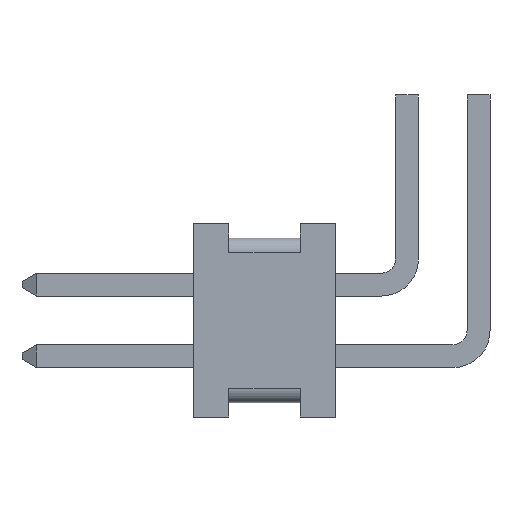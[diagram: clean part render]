
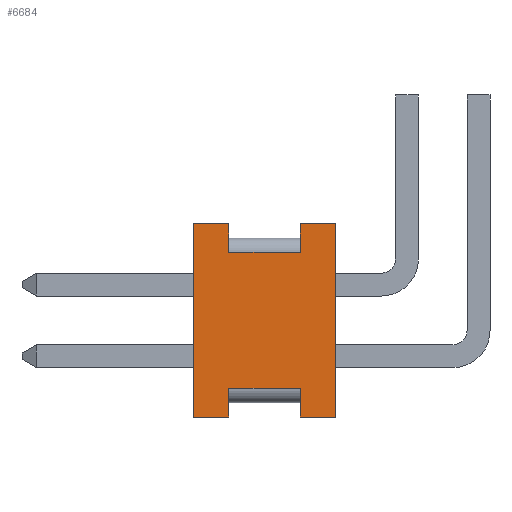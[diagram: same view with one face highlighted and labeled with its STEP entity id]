
A CAD part, left-side view. The second image highlights one B-rep face of the part: STEP entity #6684.
In plain terms, the highlighted planar face has unit normal (-1, 0, 0).
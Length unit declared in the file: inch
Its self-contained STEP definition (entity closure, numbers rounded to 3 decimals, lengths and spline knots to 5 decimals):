
#5 = EDGE_CURVE ( 'NONE', #4576, #110, #2724, .T. ) ;
#110 = VERTEX_POINT ( 'NONE', #1661 ) ;
#189 = CARTESIAN_POINT ( 'NONE',  ( -0.075, 0.099, -0.0675 ) ) ;
#210 = VECTOR ( 'NONE', #1917, 39.37008 ) ;
#439 = ORIENTED_EDGE ( 'NONE', *, *, #2775, .F. ) ;
#637 = ORIENTED_EDGE ( 'NONE', *, *, #5, .T. ) ;
#666 = VECTOR ( 'NONE', #4934, 39.37008 ) ;
#725 = CARTESIAN_POINT ( 'NONE',  ( -0.075, 0.099, 0.0675 ) ) ;
#746 = LINE ( 'NONE', #4200, #1430 ) ;
#749 = EDGE_CURVE ( 'NONE', #3962, #2841, #2348, .T. ) ;
#750 = CARTESIAN_POINT ( 'NONE',  ( -0.075, 0.099, 0.0675 ) ) ;
#927 = FACE_OUTER_BOUND ( 'NONE', #4146, .T. ) ;
#955 = ORIENTED_EDGE ( 'NONE', *, *, #3606, .T. ) ;
#1157 = EDGE_CURVE ( 'NONE', #2841, #4528, #4272, .T. ) ;
#1346 = VECTOR ( 'NONE', #1589, 39.37008 ) ;
#1352 = LINE ( 'NONE', #6572, #2049 ) ;
#1354 = ORIENTED_EDGE ( 'NONE', *, *, #3099, .T. ) ;
#1430 = VECTOR ( 'NONE', #6374, 39.37008 ) ;
#1511 = EDGE_CURVE ( 'NONE', #6709, #1708, #2157, .T. ) ;
#1589 = DIRECTION ( 'NONE',  ( 0., 0., -1. ) ) ;
#1629 = CARTESIAN_POINT ( 'NONE',  ( -0.075, 0.0245, -0.0475 ) ) ;
#1661 = CARTESIAN_POINT ( 'NONE',  ( -0.075, 0.0245, -0.0675 ) ) ;
#1665 = VECTOR ( 'NONE', #6109, 39.37008 ) ;
#1708 = VERTEX_POINT ( 'NONE', #1859 ) ;
#1752 = CARTESIAN_POINT ( 'NONE',  ( -0.075, 0.0745, 0.0675 ) ) ;
#1859 = CARTESIAN_POINT ( 'NONE',  ( -0.075, 0., 0.0675 ) ) ;
#1899 = DIRECTION ( 'NONE',  ( 0., -1., 0. ) ) ;
#1917 = DIRECTION ( 'NONE',  ( 0., 0., 1. ) ) ;
#2040 = CARTESIAN_POINT ( 'NONE',  ( -0.075, 0.099, 0.0675 ) ) ;
#2049 = VECTOR ( 'NONE', #2739, 39.37008 ) ;
#2075 = CARTESIAN_POINT ( 'NONE',  ( -0.075, 0.0745, 0.0475 ) ) ;
#2153 = ORIENTED_EDGE ( 'NONE', *, *, #5321, .F. ) ;
#2157 = LINE ( 'NONE', #4554, #2678 ) ;
#2172 = VECTOR ( 'NONE', #3416, 39.37008 ) ;
#2348 = LINE ( 'NONE', #3944, #1665 ) ;
#2678 = VECTOR ( 'NONE', #6194, 39.37008 ) ;
#2724 = LINE ( 'NONE', #7085, #1346 ) ;
#2739 = DIRECTION ( 'NONE',  ( 0., -1., 0. ) ) ;
#2775 = EDGE_CURVE ( 'NONE', #3962, #1708, #1352, .T. ) ;
#2805 = CARTESIAN_POINT ( 'NONE',  ( -0.075, 0.0245, 0.0475 ) ) ;
#2841 = VERTEX_POINT ( 'NONE', #2805 ) ;
#2848 = ORIENTED_EDGE ( 'NONE', *, *, #6750, .F. ) ;
#2866 = VERTEX_POINT ( 'NONE', #4519 ) ;
#3007 = CARTESIAN_POINT ( 'NONE',  ( -0.075, 0.099, -0.0675 ) ) ;
#3085 = ORIENTED_EDGE ( 'NONE', *, *, #749, .T. ) ;
#3099 = EDGE_CURVE ( 'NONE', #2866, #4576, #746, .T. ) ;
#3387 = VERTEX_POINT ( 'NONE', #6069 ) ;
#3416 = DIRECTION ( 'NONE',  ( 0., 0., 1. ) ) ;
#3490 = LINE ( 'NONE', #189, #4976 ) ;
#3606 = EDGE_CURVE ( 'NONE', #110, #6709, #3490, .T. ) ;
#3736 = LINE ( 'NONE', #1752, #2172 ) ;
#3754 = PLANE ( 'NONE',  #3797 ) ;
#3755 = CARTESIAN_POINT ( 'NONE',  ( -0.075, 0.099, 0.0475 ) ) ;
#3797 = AXIS2_PLACEMENT_3D ( 'NONE', #2040, #4319, #5378 ) ;
#3815 = ORIENTED_EDGE ( 'NONE', *, *, #7065, .T. ) ;
#3944 = CARTESIAN_POINT ( 'NONE',  ( -0.075, 0.0245, 0.0675 ) ) ;
#3962 = VERTEX_POINT ( 'NONE', #4117 ) ;
#3987 = LINE ( 'NONE', #725, #4941 ) ;
#4088 = VERTEX_POINT ( 'NONE', #6896 ) ;
#4117 = CARTESIAN_POINT ( 'NONE',  ( -0.075, 0.0245, 0.0675 ) ) ;
#4138 = DIRECTION ( 'NONE',  ( 0., -1., 0. ) ) ;
#4146 = EDGE_LOOP ( 'NONE', ( #5948, #6460, #2848, #2153, #3815, #4990, #1354, #637, #955, #6301, #439, #3085 ) ) ;
#4200 = CARTESIAN_POINT ( 'NONE',  ( -0.075, 0.099, -0.0475 ) ) ;
#4272 = LINE ( 'NONE', #3755, #4349 ) ;
#4277 = CARTESIAN_POINT ( 'NONE',  ( -0.075, 0., -0.0675 ) ) ;
#4319 = DIRECTION ( 'NONE',  ( 1., 0., 0. ) ) ;
#4349 = VECTOR ( 'NONE', #5380, 39.37008 ) ;
#4519 = CARTESIAN_POINT ( 'NONE',  ( -0.075, 0.0745, -0.0475 ) ) ;
#4528 = VERTEX_POINT ( 'NONE', #2075 ) ;
#4554 = CARTESIAN_POINT ( 'NONE',  ( -0.075, 0., 0.0675 ) ) ;
#4576 = VERTEX_POINT ( 'NONE', #1629 ) ;
#4934 = DIRECTION ( 'NONE',  ( 0., -1., 0. ) ) ;
#4941 = VECTOR ( 'NONE', #5678, 39.37008 ) ;
#4976 = VECTOR ( 'NONE', #1899, 39.37008 ) ;
#4990 = ORIENTED_EDGE ( 'NONE', *, *, #5279, .T. ) ;
#5243 = EDGE_CURVE ( 'NONE', #4528, #4088, #3736, .T. ) ;
#5246 = LINE ( 'NONE', #3007, #5658 ) ;
#5279 = EDGE_CURVE ( 'NONE', #7073, #2866, #6567, .T. ) ;
#5321 = EDGE_CURVE ( 'NONE', #3387, #5692, #3987, .T. ) ;
#5378 = DIRECTION ( 'NONE',  ( 0., 0., -1. ) ) ;
#5380 = DIRECTION ( 'NONE',  ( 0., 1., 0. ) ) ;
#5426 = LINE ( 'NONE', #7139, #666 ) ;
#5658 = VECTOR ( 'NONE', #4138, 39.37008 ) ;
#5678 = DIRECTION ( 'NONE',  ( 0., 0., 1. ) ) ;
#5692 = VERTEX_POINT ( 'NONE', #750 ) ;
#5948 = ORIENTED_EDGE ( 'NONE', *, *, #1157, .T. ) ;
#6069 = CARTESIAN_POINT ( 'NONE',  ( -0.075, 0.099, -0.0675 ) ) ;
#6109 = DIRECTION ( 'NONE',  ( 0., 0., -1. ) ) ;
#6194 = DIRECTION ( 'NONE',  ( 0., 0., 1. ) ) ;
#6219 = CARTESIAN_POINT ( 'NONE',  ( -0.075, 0.0745, -0.0675 ) ) ;
#6301 = ORIENTED_EDGE ( 'NONE', *, *, #1511, .T. ) ;
#6315 = CARTESIAN_POINT ( 'NONE',  ( -0.075, 0.0745, -0.0675 ) ) ;
#6374 = DIRECTION ( 'NONE',  ( 0., -1., 0. ) ) ;
#6460 = ORIENTED_EDGE ( 'NONE', *, *, #5243, .T. ) ;
#6567 = LINE ( 'NONE', #6315, #210 ) ;
#6572 = CARTESIAN_POINT ( 'NONE',  ( -0.075, 0.099, 0.0675 ) ) ;
#6684 = ADVANCED_FACE ( 'NONE', ( #927 ), #3754, .F. ) ;
#6709 = VERTEX_POINT ( 'NONE', #4277 ) ;
#6750 = EDGE_CURVE ( 'NONE', #5692, #4088, #5426, .T. ) ;
#6896 = CARTESIAN_POINT ( 'NONE',  ( -0.075, 0.0745, 0.0675 ) ) ;
#7065 = EDGE_CURVE ( 'NONE', #3387, #7073, #5246, .T. ) ;
#7073 = VERTEX_POINT ( 'NONE', #6219 ) ;
#7085 = CARTESIAN_POINT ( 'NONE',  ( -0.075, 0.0245, -0.0675 ) ) ;
#7139 = CARTESIAN_POINT ( 'NONE',  ( -0.075, 0.099, 0.0675 ) ) ;
